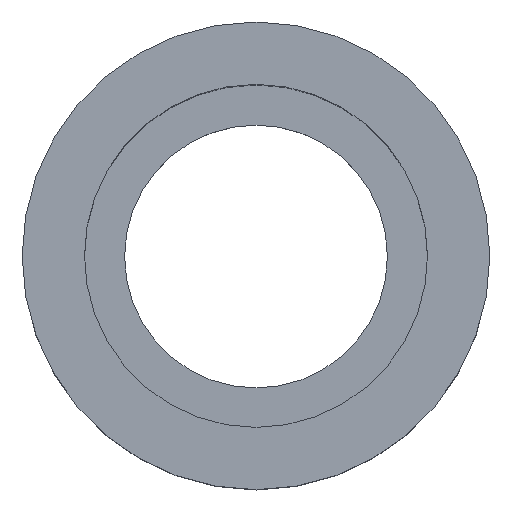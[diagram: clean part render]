
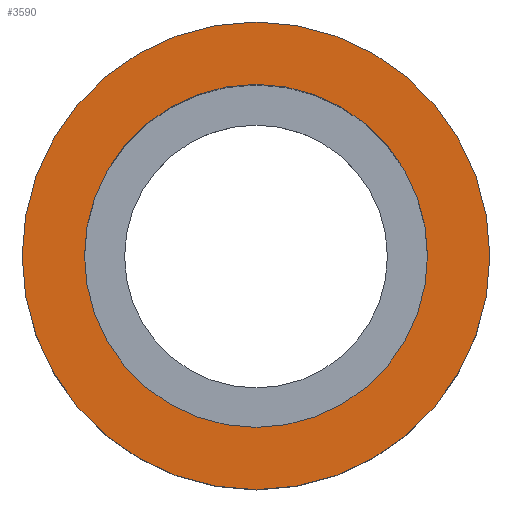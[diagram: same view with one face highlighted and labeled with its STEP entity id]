
A CAD part, top view. The second image highlights one B-rep face of the part: STEP entity #3590.
In plain terms, the highlighted planar face has unit normal (0, 0, 1) as drawn and (0, -1, 0) by its records, which use the part's own axes.
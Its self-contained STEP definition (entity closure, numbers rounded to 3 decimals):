
#1860=CARTESIAN_POINT('',(12.675,-38.294,-13.875));
#1870=VERTEX_POINT('',#1860);
#2050=CARTESIAN_POINT('',(12.675,-38.294,13.925));
#2060=VERTEX_POINT('',#2050);
#2090=CARTESIAN_POINT('',(12.675,-38.294,0.025));
#2100=DIRECTION('',(0.,1.,0.));
#2110=DIRECTION('',(0.,0.,-1.));
#2120=AXIS2_PLACEMENT_3D('',#2090,#2100,#2110);
#2130=CIRCLE('',#2120,13.9);
#2140=EDGE_CURVE('',#2060,#1870,#2130,.T.);
#3340=CARTESIAN_POINT('',(12.675,-38.294,-17.65));
#3350=DIRECTION('',(0.,-1.,0.));
#3360=DIRECTION('',(0.,0.,-1.));
#3370=AXIS2_PLACEMENT_3D('',#3340,#3350,#3360);
#3380=PLANE('',#3370);
#3390=EDGE_CURVE('',#1870,#2060,#2130,.T.);
#3400=ORIENTED_EDGE('',*,*,#3390,.T.);
#3410=ORIENTED_EDGE('',*,*,#2140,.T.);
#3420=EDGE_LOOP('',(#3410,#3400));
#3430=FACE_BOUND('',#3420,.T.);
#3440=CARTESIAN_POINT('',(12.675,-38.294,0.025));
#3450=DIRECTION('',(0.,1.,0.));
#3460=DIRECTION('',(0.,0.,1.));
#3470=AXIS2_PLACEMENT_3D('',#3440,#3450,#3460);
#3480=CIRCLE('',#3470,18.95);
#3490=CARTESIAN_POINT('',(12.675,-38.294,18.975));
#3500=VERTEX_POINT('',#3490);
#3510=CARTESIAN_POINT('',(12.675,-38.294,-18.925));
#3520=VERTEX_POINT('',#3510);
#3530=EDGE_CURVE('',#3500,#3520,#3480,.T.);
#3540=ORIENTED_EDGE('',*,*,#3530,.F.);
#3550=EDGE_CURVE('',#3520,#3500,#3480,.T.);
#3560=ORIENTED_EDGE('',*,*,#3550,.F.);
#3570=EDGE_LOOP('',(#3560,#3540));
#3580=FACE_OUTER_BOUND('',#3570,.T.);
#3590=ADVANCED_FACE('',(#3430,#3580),#3380,.T.);
